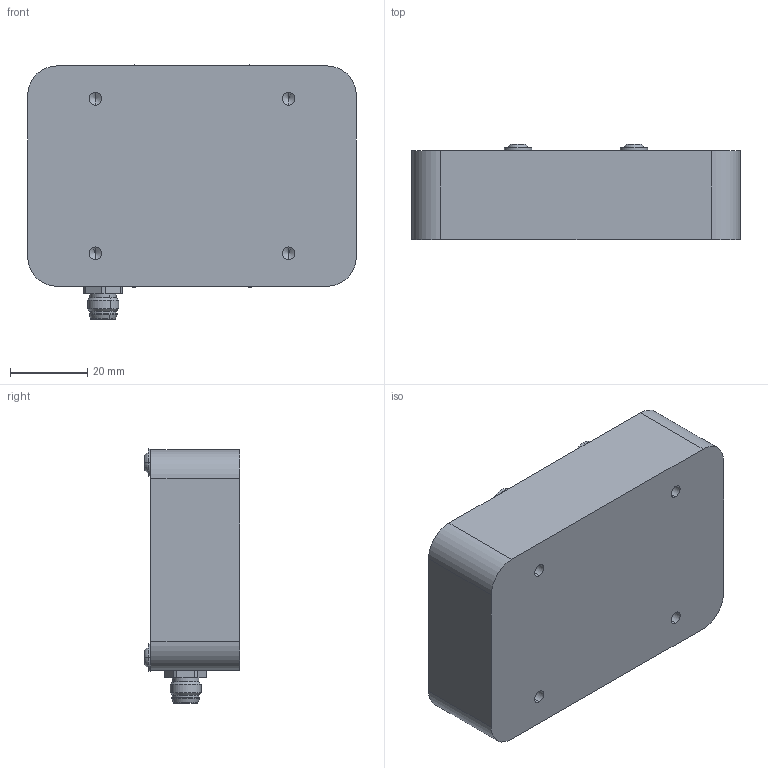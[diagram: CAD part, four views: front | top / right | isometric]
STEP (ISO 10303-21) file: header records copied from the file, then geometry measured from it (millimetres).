
FILE_DESCRIPTION (( 'STEP AP203' ), '1' );
FILE_NAME ('10581103_0703 (Part) (2017-07-25).STEP', '2017-07-25T18:06:51', ( '' ), ( '' ), 'SwSTEP 2.0', 'SolidWorks 2016', '' );
FILE_SCHEMA (( 'CONFIG_CONTROL_DESIGN' ));
Length unit declared in the file: millimetre
Products named in the file (1): 10581103_0703 (Part) (2017-07-25)
Bounding box: 85 x 24.7 x 65.75 mm (x, y, z)
Volume: 71336.3 mm3; surface area: 27673.4 mm2
Topology: 1 solids, 7 shells, 263 faces, 636 edges, 370 vertices
Faces by surface type: plane 110, cylinder 94, cone 48, torus 8, bspline 3
Entity records: 7492 total; most frequent: DIRECTION 1390, CARTESIAN_POINT 1277, ORIENTED_EDGE 1196, EDGE_CURVE 598, AXIS2_PLACEMENT_3D 531, VERTEX_POINT 370, LINE 328, VECTOR 328
